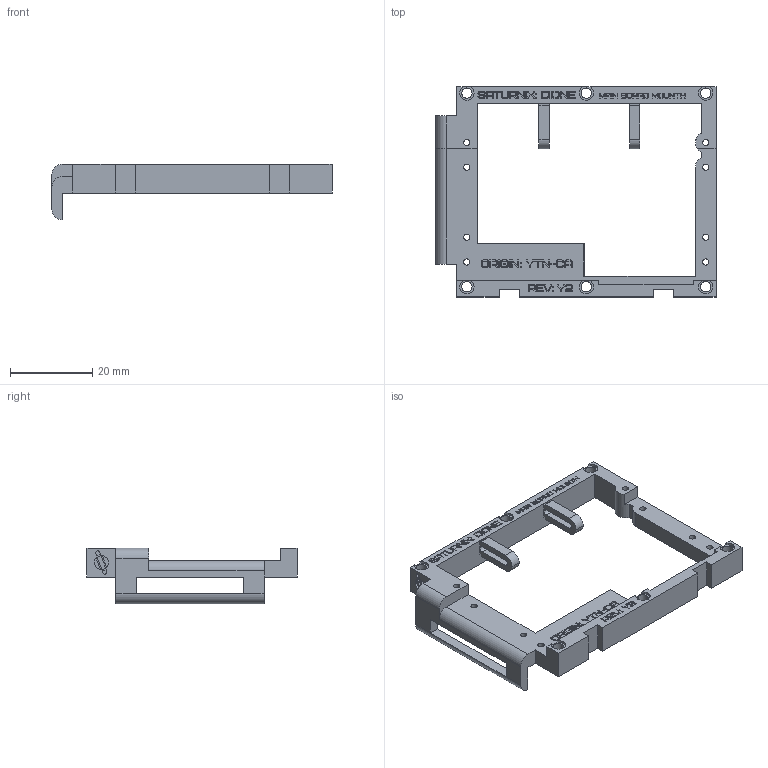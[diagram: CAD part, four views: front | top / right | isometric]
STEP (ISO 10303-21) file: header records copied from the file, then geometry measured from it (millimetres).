
FILE_DESCRIPTION(/* description */ (''),/* implementation_level */ '2;1');
FILE_NAME(/* name */ 'main_board_mount.step',/* time_stamp */ '2026-07-06T12:51:26-05:00',/* author */ (''),/* organization */ (''),/* preprocessor_version */ 'ST-DEVELOPER v20.1',/* originating_system */ 'Autodesk Translation Framework v15.8.0.0',/* authorisation */ '');
FILE_SCHEMA (('AUTOMOTIVE_DESIGN { 1 0 10303 214 3 1 1 }'));
Length unit declared in the file: millimetre
Products named in the file (1): SaturnixLite_Hull
Bounding box: 68 x 51 x 13.5 mm (x, y, z)
Volume: 7037.6 mm3; surface area: 6789.7 mm2
Topology: 1 solids, 1 shells, 786 faces, 2149 edges, 1428 vertices
Faces by surface type: plane 616, bspline 124, cylinder 46
Full cylindrical faces by diameter (mm): 1.5 x8, 2.5 x6
Entity records: 25035 total; most frequent: CARTESIAN_POINT 6044, ORIENTED_EDGE 4282, DIRECTION 3312, EDGE_CURVE 2141, LINE 1800, VECTOR 1800, VERTEX_POINT 1424, EDGE_LOOP 889
